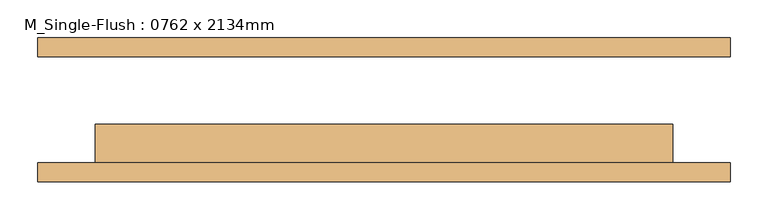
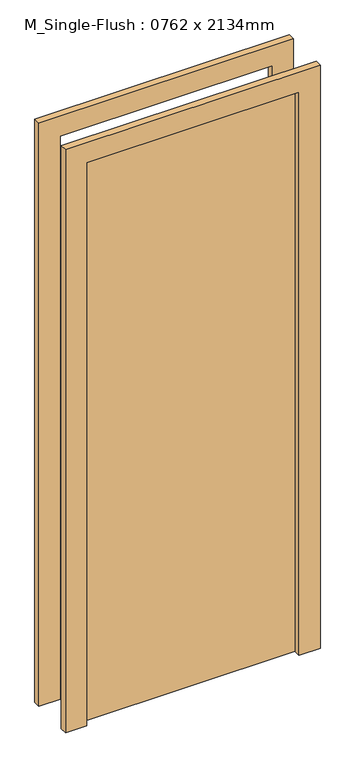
"""IFC4 building model written with IfcOpenShell, lengths in millimetres: door geometry, M_Single-Flush : 0762 x 2134mm."""

from ifc_helpers import new_model, si_unit, frame, origin, origin_with_axes, place, context, project, spatial, polyline, outline, extrude, source, transform, mapped, element, save


def m_single_flush_0762_x_2134mm_ed6e5a06(model_context):
    return source(origin(), model_context, "Body", "SweptSolid", [
        extrude(outline(polyline([(2210.0, -457.0), (0.0, -457.0), (0.0, -381.0), (2134.0, -381.0), (2134.0, 381.0), (0.0, 381.0), (0.0, 457.0), (2210.0, 457.0), (2210.0, -457.0)])), frame((0.0, -95.0, 0.0), z_axis=(0.0, 1.0, 0.0), x_axis=(0.0, 0.0, 1.0)), (0.0, 0.0, 1.0), 25.0),
        extrude(outline(polyline([(2210.0, 457.0), (2210.0, -457.0), (0.0, -457.0), (0.0, -381.0), (2134.0, -381.0), (2134.0, 381.0), (0.0, 381.0), (0.0, 457.0), (2210.0, 457.0)])), frame((0.0, 70.0, 0.0), z_axis=(0.0, 1.0, 0.0), x_axis=(0.0, 0.0, 1.0)), (0.0, 0.0, 1.0), 25.0),
        extrude(outline(polyline([(381.0, -19.0), (381.0, -70.0), (-381.0, -70.0), (-381.0, -19.0), (381.0, -19.0)])), origin_with_axes(), (0.0, 0.0, 1.0), 2134.0),
    ])


if __name__ == "__main__":
    model = new_model("IFC4")
    model_context = context("Model", 3, world=origin())
    ifc_project = project(units=[si_unit("LENGTHUNIT", "METRE", prefix="MILLI")], contexts=[model_context])
    site = spatial("IfcSite", under=ifc_project)
    building = spatial("IfcBuilding", under=site)
    placement = place(None, origin())
    m_single_flush_0762_x_2134mm_shape = m_single_flush_0762_x_2134mm_ed6e5a06(model_context)
    element("IfcDoor", 1, ObjectType="M_Single-Flush : 0762 x 2134mm", at=placement, inside=building, context=model_context, shape_type="MappedRepresentation", body=[
        mapped(m_single_flush_0762_x_2134mm_shape, transform((0.0, 0.0, 0.0), x_axis=(1.0, 0.0, 0.0), y_axis=(0.0, 1.0, 0.0), z_axis=(0.0, 0.0, 1.0))),
    ])
    save(model, "model.ifc")
